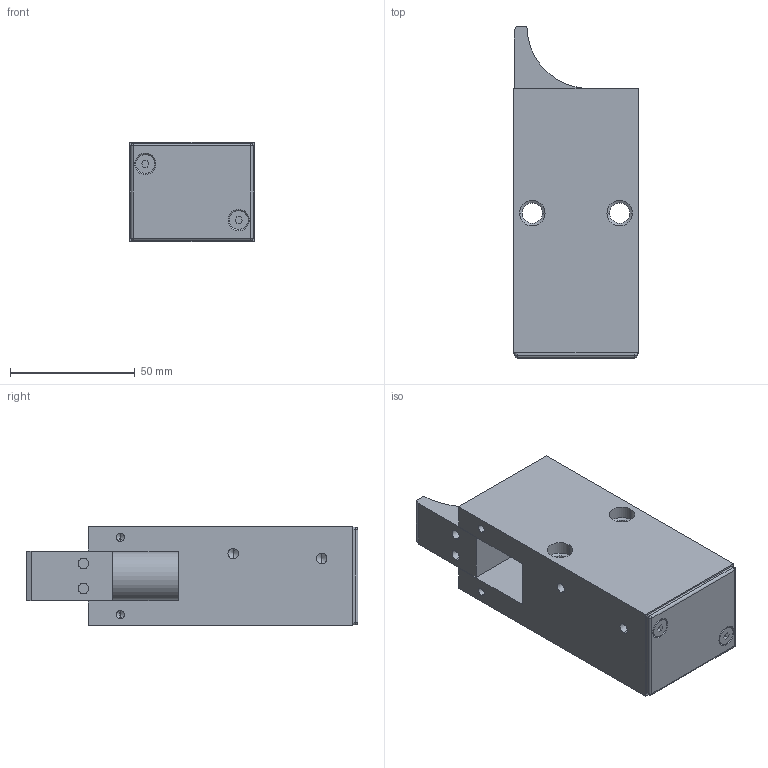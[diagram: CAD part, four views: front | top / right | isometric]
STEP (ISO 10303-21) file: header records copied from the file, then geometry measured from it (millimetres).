
FILE_DESCRIPTION (( 'STEP AP203' ), '1' );
FILE_NAME ('D0400-25-EW-H-G.STEP', '2011-10-13T08:46:53', ( 'test' ), ( '' ), 'SwSTEP 2.0', 'SolidWorks 2010', '' );
FILE_SCHEMA (( 'CONFIG_CONTROL_DESIGN' ));
Length unit declared in the file: millimetre
Products named in the file (1): D0400-25-EW-H-G
Bounding box: 50 x 133 x 40 mm (x, y, z)
Volume: 205149.4 mm3; surface area: 33932.3 mm2
Topology: 1 solids, 1 shells, 120 faces, 284 edges, 162 vertices
Faces by surface type: cylinder 49, plane 39, cone 28, sphere 4
Entity records: 3369 total; most frequent: DIRECTION 606, CARTESIAN_POINT 561, ORIENTED_EDGE 528, EDGE_CURVE 264, AXIS2_PLACEMENT_3D 223, VERTEX_POINT 162, LINE 160, VECTOR 160
